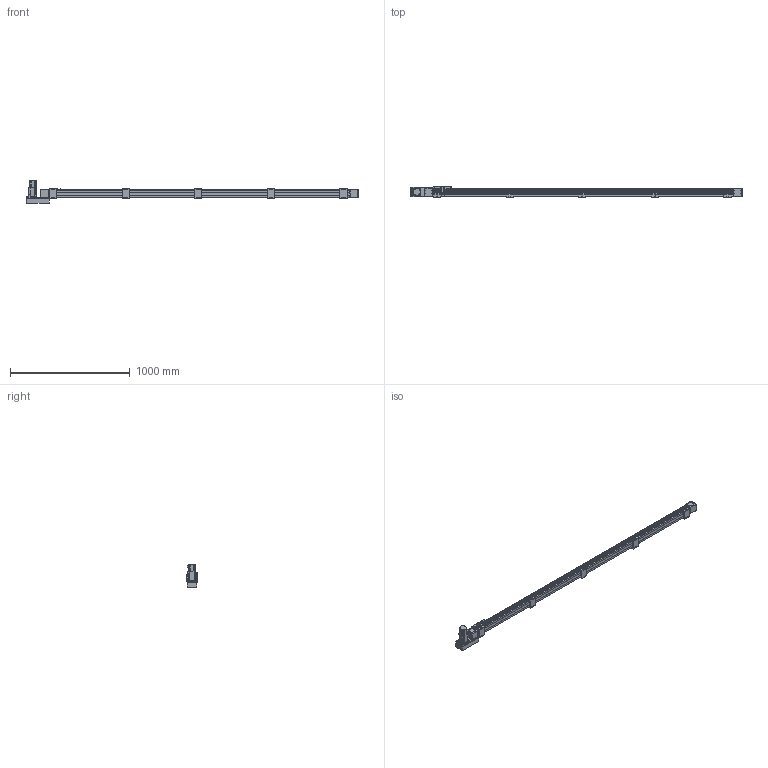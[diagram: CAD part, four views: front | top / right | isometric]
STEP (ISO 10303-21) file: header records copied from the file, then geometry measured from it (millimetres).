
FILE_DESCRIPTION(/* description */ ('STEP AP214'),/* implementation_level */ '2;1');
FILE_NAME(/* name */ 'SK60-P13-S2350-L-T40-C1-N(0)',/* time_stamp */ '2023-04-06T04:11:59+02:00',/* author */ ('License CC BY-ND 4.0'),/* organization */ ('CADENAS'),/* preprocessor_version */ 'ST-DEVELOPER v19.3',/* originating_system */ 'PARTsolutions',/* authorisation */ ' ');
FILE_SCHEMA (('AUTOMOTIVE_DESIGN {1 0 10303 214 3 1 1}'));
Length unit declared in the file: millimetre
Products named in the file (10): SK60-P13-S2350-L-T40-C1-N(0); PSC140-sensor; SK60-S450_seat; SK60-S450-BL-C1_slider; SK60_body3; SK60_body6; SK60-BL_body2; T40-p1; SK60-L_fb; SK60-S2350-L-C1_body
Assembly tree (19 placements, depth 2):
  SK60-P13-S2350-L-T40-C1-N(0)
    PSC140-sensor  x3
    SK60-S450_seat  x5
    SK60-S450-BL-C1_slider
    SK60_body3  x3
    SK60_body6  x2
    SK60-BL_body2  x2
    T40-p1
    SK60-L_fb
    SK60-S2350-L-C1_body
Bounding box: 2770.5 x 90 x 189.7 mm (x, y, z)
Volume: 10203873.2 mm3; surface area: 1206387 mm2
Topology: 19 solids, 19 shells, 942 faces, 2342 edges, 1541 vertices
Faces by surface type: plane 596, cylinder 310, cone 34, torus 2
Full cylindrical faces by diameter (mm): 2.8 x3, 3.3 x4, 4 x2, 4.5 x30, 4.6 x3, 4.917 x28, 5 x6, 5.478 x4, 5.5 x31, 6.5 x10, 7 x2, 8 x4, 8.5 x4, 9.988 x4, 10 x20, 14 x1, 47 x3, 50 x2
Entity records: 18679 total; most frequent: DIRECTION 3190, CARTESIAN_POINT 3153, ORIENTED_EDGE 2940, EDGE_CURVE 1470, AXIS2_PLACEMENT_3D 1071, LINE 1048, VECTOR 1048, VERTEX_POINT 1034
